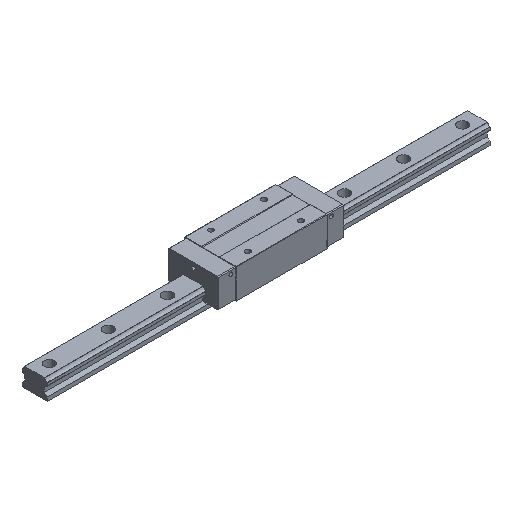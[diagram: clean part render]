
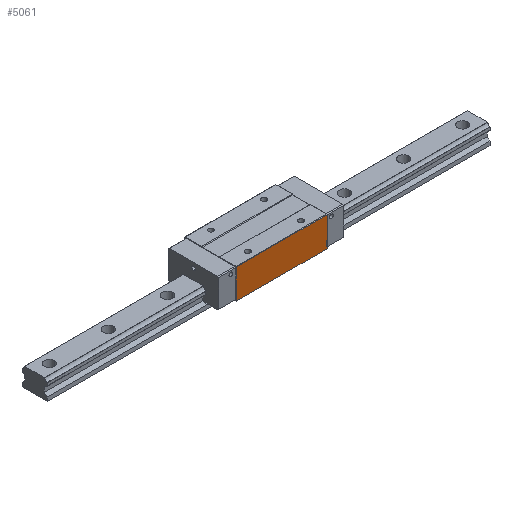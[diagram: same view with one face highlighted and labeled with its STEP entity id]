
A CAD part, isometric view. The second image highlights one B-rep face of the part: STEP entity #5061.
In plain terms, the highlighted planar face has unit normal (0, -1, 0).
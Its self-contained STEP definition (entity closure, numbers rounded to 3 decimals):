
#96 = LINE ( 'NONE', #2195, #5164 ) ;
#461 = DIRECTION ( 'NONE',  ( 0., 0., -1. ) ) ;
#469 = DIRECTION ( 'NONE',  ( -1., 0., 0. ) ) ;
#676 = CARTESIAN_POINT ( 'NONE',  ( 61.5, -35., 47.5 ) ) ;
#713 = CARTESIAN_POINT ( 'NONE',  ( 61.5, -35., 7.5 ) ) ;
#798 = EDGE_CURVE ( 'NONE', #2996, #4824, #4574, .T. ) ;
#801 = CARTESIAN_POINT ( 'NONE',  ( -61.5, -35., 47.5 ) ) ;
#988 = VECTOR ( 'NONE', #469, 1000. ) ;
#989 = FACE_OUTER_BOUND ( 'NONE', #1540, .T. ) ;
#1302 = DIRECTION ( 'NONE',  ( 0., 0., -1. ) ) ;
#1459 = DIRECTION ( 'NONE',  ( 0., 1., 0. ) ) ;
#1540 = EDGE_LOOP ( 'NONE', ( #4703, #4388, #1761, #5100 ) ) ;
#1761 = ORIENTED_EDGE ( 'NONE', *, *, #4558, .T. ) ;
#1866 = CARTESIAN_POINT ( 'NONE',  ( 61.5, -35., 47.5 ) ) ;
#2120 = EDGE_CURVE ( 'NONE', #5592, #2150, #3966, .T. ) ;
#2150 = VERTEX_POINT ( 'NONE', #3260 ) ;
#2195 = CARTESIAN_POINT ( 'NONE',  ( 61.5, -35., 48. ) ) ;
#2265 = CARTESIAN_POINT ( 'NONE',  ( -61.5, -35., 48. ) ) ;
#2408 = EDGE_CURVE ( 'NONE', #2996, #5592, #96, .T. ) ;
#2419 = DIRECTION ( 'NONE',  ( -1., 0., 0. ) ) ;
#2757 = PLANE ( 'NONE',  #3230 ) ;
#2769 = VECTOR ( 'NONE', #1302, 1000. ) ;
#2951 = VECTOR ( 'NONE', #2419, 1000. ) ;
#2996 = VERTEX_POINT ( 'NONE', #1866 ) ;
#3230 = AXIS2_PLACEMENT_3D ( 'NONE', #4550, #1459, #5436 ) ;
#3260 = CARTESIAN_POINT ( 'NONE',  ( -61.5, -35., 7.5 ) ) ;
#3966 = LINE ( 'NONE', #4364, #988 ) ;
#4362 = LINE ( 'NONE', #2265, #2769 ) ;
#4364 = CARTESIAN_POINT ( 'NONE',  ( 61.5, -35., 7.5 ) ) ;
#4388 = ORIENTED_EDGE ( 'NONE', *, *, #798, .T. ) ;
#4550 = CARTESIAN_POINT ( 'NONE',  ( 61.5, -35., 48. ) ) ;
#4558 = EDGE_CURVE ( 'NONE', #4824, #2150, #4362, .T. ) ;
#4574 = LINE ( 'NONE', #676, #2951 ) ;
#4703 = ORIENTED_EDGE ( 'NONE', *, *, #2408, .F. ) ;
#4824 = VERTEX_POINT ( 'NONE', #801 ) ;
#5061 = ADVANCED_FACE ( 'NONE', ( #989 ), #2757, .F. ) ;
#5100 = ORIENTED_EDGE ( 'NONE', *, *, #2120, .F. ) ;
#5164 = VECTOR ( 'NONE', #461, 1000. ) ;
#5436 = DIRECTION ( 'NONE',  ( 1., 0., 0. ) ) ;
#5592 = VERTEX_POINT ( 'NONE', #713 ) ;
